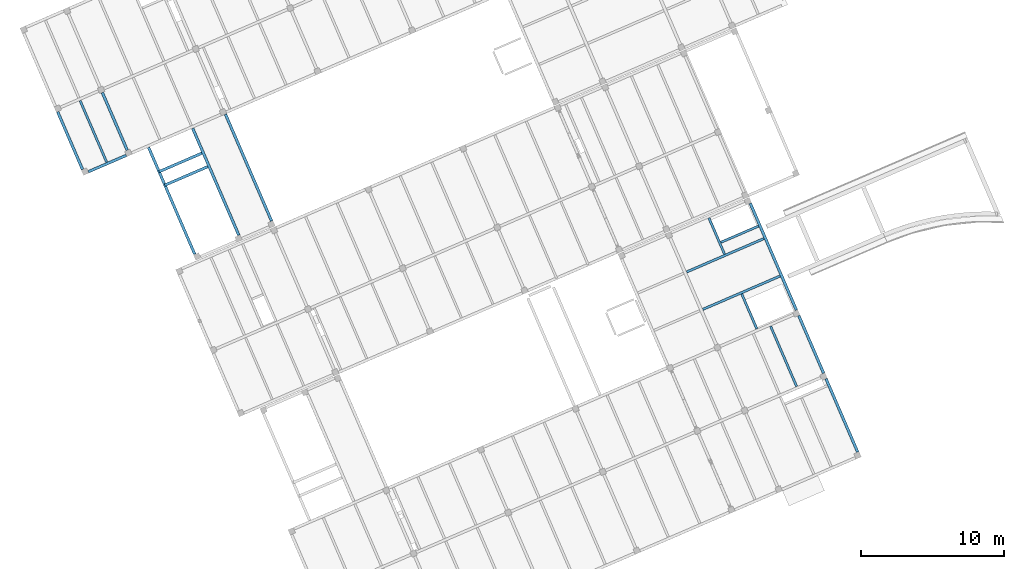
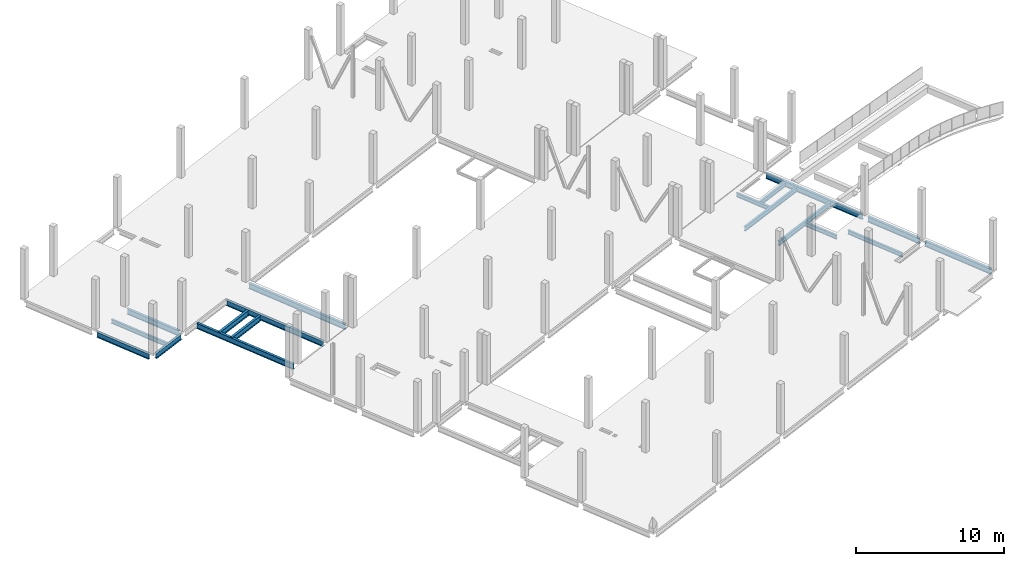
# One storey, part 13 of 24: 18 beams.
"""IFC4 building model written with IfcOpenShell, lengths in metres."""

from ifc_helpers import new_model, entity, si_unit, converted_unit, derived_unit, direction, frame, origin, place, context, subcontext, project, spatial, line, arc, indexed_curve, outline, extrude, source, transform, mapped, material, type_object, type_shapes, element, save


model = new_model("IFC4")

# Units and contexts
model_context = context("Model", 3, precision=1e-05, world=origin(), true_north=direction((6.12323399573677e-17, 1.0)))
body_context = subcontext(model_context, "Body", "Model", "MODEL_VIEW")
ifc_project = project(units=[si_unit("LENGTHUNIT", "METRE"), si_unit("AREAUNIT", "SQUARE_METRE"), si_unit("VOLUMEUNIT", "CUBIC_METRE"), converted_unit("PLANEANGLEUNIT", "DEGREE", entity("IfcPlaneAngleMeasure", 0.0174532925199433), si_unit("PLANEANGLEUNIT", "RADIAN"), dimensions=[0, 0, 0, 0, 0, 0, 0]), si_unit("MASSUNIT", "GRAM", prefix="KILO"), derived_unit("MOMENTOFINERTIAUNIT", [(si_unit("LENGTHUNIT", "METRE"), 4)]), derived_unit("LINEARFORCEUNIT", [(si_unit("MASSUNIT", "GRAM", prefix="KILO"), 1), (si_unit("TIMEUNIT", "SECOND"), -2)]), derived_unit("WARPINGCONSTANTUNIT", [(si_unit("LENGTHUNIT", "METRE"), 6)]), derived_unit("THERMALTRANSMITTANCEUNIT", [(si_unit("MASSUNIT", "GRAM", prefix="KILO"), 1), (si_unit("THERMODYNAMICTEMPERATUREUNIT", "KELVIN"), -1), (si_unit("TIMEUNIT", "SECOND"), -3)]), derived_unit("USERDEFINED", [(si_unit("MASSUNIT", "GRAM", prefix="KILO"), 1), (si_unit("TIMEUNIT", "SECOND"), -2), (si_unit("THERMODYNAMICTEMPERATUREUNIT", "KELVIN"), -1)]), derived_unit("THERMALRESISTANCEUNIT", [(si_unit("MASSUNIT", "GRAM", prefix="KILO"), -1), (si_unit("TIMEUNIT", "SECOND"), 3), (si_unit("THERMODYNAMICTEMPERATUREUNIT", "KELVIN"), 1)])], contexts=[model_context])

# Site, building, storey
site_placement = place(None, origin())
site = spatial("IfcSite", under=ifc_project, at=site_placement, Name="Default", CompositionType="ELEMENT")
building_placement = place(site_placement, frame((12.6613425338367, -82.5732315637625, 317.15), z_axis=(0.0, 0.0, 1.0), x_axis=(-0.396377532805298, 0.918087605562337, 0.0)))
building = spatial("IfcBuilding", under=site, at=building_placement, Name="CESFAM Coyhaique", CompositionType="ELEMENT")
storey_placement = place(building_placement, frame((0.0, 0.0, 4.20000000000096)))
storey = spatial("IfcBuildingStorey", under=building, at=storey_placement, Name="Nivel 2", CompositionType="ELEMENT", Elevation=4.20000000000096)

# Beams
ifc_material = material(Name="Steel, 45-345", Category="Metal")
beam_type_1 = type_object("IfcBeamType", Name="M_W Shapes:W450X190mm", PredefinedType="BEAM", material=ifc_material)
shared_shape_1 = source(origin(), body_context, "Body", "SweptSolid", [
    extrude(outline(indexed_curve([(-0.225, -0.0949999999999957), (-0.215350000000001, -0.0949999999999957), (-0.21535, -0.0105699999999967), (-0.213109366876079, -0.00516063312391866), (-0.2077, -0.00291999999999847), (0.207699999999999, -0.00291999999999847), (0.213109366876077, -0.00516063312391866), (0.215349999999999, -0.0105699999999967), (0.215349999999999, -0.0949999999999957), (0.225, -0.0949999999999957), (0.225, 0.0950000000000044), (0.215349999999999, 0.0950000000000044), (0.215349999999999, 0.0105700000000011), (0.213109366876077, 0.00516063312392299), (0.207699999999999, 0.0029200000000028), (-0.2077, 0.0029200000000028), (-0.213109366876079, 0.00516063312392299), (-0.215350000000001, 0.0105700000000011), (-0.215350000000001, 0.0950000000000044), (-0.225, 0.0950000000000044)], segments=[line(1, 2, 3), arc(3, 4, 5), line(5, 6), arc(6, 7, 8), line(8, 9, 10, 11, 12, 13), arc(13, 14, 15), line(15, 16), arc(16, 17, 18), line(18, 19, 20, 1)], self_intersect=False)), frame((4.38155341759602, -21.2971500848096, 3.82500000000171), z_axis=(1.0, 0.0, 0.0), x_axis=(0.0, 0.0, -1.0)), (0.0, 0.0, 1.0), 5.5746),
])
type_shapes(beam_type_1, [shared_shape_1])
beam_1_placement = place(storey_placement, frame((0.0, 0.0, -4.20000000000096)))
element("IfcBeam", 1, at=beam_1_placement, inside=storey, type_object=beam_type_1, Name="M_W Shapes:W450X190mm", ObjectType="M_W Shapes:W450X190mm", PredefinedType="BEAM", context=body_context, shape_type="MappedRepresentation", body=[
    mapped(shared_shape_1, transform((0.0, 0.0, 0.0), scale=1.0)),
])
beam_type_2 = type_object("IfcBeamType", Name="M_W Shapes:W450X190mm", PredefinedType="BEAM", material=ifc_material)
shared_shape_2 = source(origin(), body_context, "Body", "SweptSolid", [
    extrude(outline(indexed_curve([(-0.225, -0.0950000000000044), (-0.215350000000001, -0.0950000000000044), (-0.21535, -0.0105700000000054), (-0.213109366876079, -0.00516063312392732), (-0.2077, -0.00292000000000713), (0.207699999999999, -0.00292000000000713), (0.213109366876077, -0.00516063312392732), (0.215349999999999, -0.0105700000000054), (0.215349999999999, -0.0950000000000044), (0.225, -0.0950000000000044), (0.225, 0.0949999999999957), (0.215349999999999, 0.0949999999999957), (0.215349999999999, 0.0105699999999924), (0.213109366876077, 0.00516063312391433), (0.207699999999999, 0.00291999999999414), (-0.2077, 0.00291999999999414), (-0.213109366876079, 0.00516063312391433), (-0.215350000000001, 0.0105699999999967), (-0.215350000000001, 0.0949999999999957), (-0.225, 0.0949999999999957)], segments=[line(1, 2, 3), arc(3, 4, 5), line(5, 6), arc(6, 7, 8), line(8, 9, 10, 11, 12, 13), arc(13, 14, 15), line(15, 16), arc(16, 17, 18), line(18, 19, 20, 1)], self_intersect=False)), frame((10.3815534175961, -21.2971500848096, 3.82500000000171), z_axis=(1.0, 0.0, 0.0), x_axis=(0.0, 0.0, -1.0)), (0.0, 0.0, 1.0), 4.3746),
])
type_shapes(beam_type_2, [shared_shape_2])
beam_2_placement = place(storey_placement, frame((0.0, 0.0, -4.20000000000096)))
element("IfcBeam", 2, at=beam_2_placement, inside=storey, type_object=beam_type_2, Name="M_W Shapes:W450X190mm", ObjectType="M_W Shapes:W450X190mm", PredefinedType="BEAM", context=body_context, shape_type="MappedRepresentation", body=[
    mapped(shared_shape_2, transform((0.0, 0.0, 0.0), scale=1.0)),
])
beam_type_3 = type_object("IfcBeamType", Name="M_W Shapes:W450X190mm", PredefinedType="BEAM", material=ifc_material)
shared_shape_3 = source(origin(), body_context, "Body", "SweptSolid", [
    extrude(outline(indexed_curve([(-0.225, -0.0950000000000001), (-0.215350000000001, -0.0950000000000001), (-0.21535, -0.0105700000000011), (-0.213109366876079, -0.00516063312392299), (-0.2077, -0.0029200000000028), (0.207699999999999, -0.0029200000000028), (0.213109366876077, -0.00516063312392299), (0.215349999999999, -0.0105700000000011), (0.215349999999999, -0.0950000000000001), (0.225, -0.0950000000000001), (0.225, 0.0950000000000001), (0.215349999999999, 0.0950000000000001), (0.215349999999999, 0.0105699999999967), (0.213109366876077, 0.00516063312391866), (0.207699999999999, 0.00291999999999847), (-0.2077, 0.00291999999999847), (-0.213109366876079, 0.00516063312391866), (-0.215350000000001, 0.0105700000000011), (-0.215350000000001, 0.0950000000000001), (-0.225, 0.0950000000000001)], segments=[line(1, 2, 3), arc(3, 4, 5), line(5, 6), arc(6, 7, 8), line(8, 9, 10, 11, 12, 13), arc(13, 14, 15), line(15, 16), arc(16, 17, 18), line(18, 19, 20, 1)], self_intersect=False)), frame((15.1815534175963, -21.2971500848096, 3.82500000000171), z_axis=(1.0, 0.0, 0.0), x_axis=(0.0, 0.0, -1.0)), (0.0, 0.0, 1.0), 8.1246),
])
type_shapes(beam_type_3, [shared_shape_3])
beam_3_placement = place(storey_placement, frame((0.0, 0.0, -4.20000000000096)))
element("IfcBeam", 3, at=beam_3_placement, inside=storey, type_object=beam_type_3, Name="M_W Shapes:W450X190mm", ObjectType="M_W Shapes:W450X190mm", PredefinedType="BEAM", context=body_context, shape_type="MappedRepresentation", body=[
    mapped(shared_shape_3, transform((0.0, 0.0, 0.0), scale=1.0)),
])
beam_type_4 = type_object("IfcBeamType", Name="M_W Shapes:W450X190mm", PredefinedType="BEAM", material=ifc_material)
shared_shape_4 = source(origin(), body_context, "Body", "SweptSolid", [
    extrude(outline(indexed_curve([(-0.225, -0.0950000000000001), (-0.215350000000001, -0.0949999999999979), (-0.21535, -0.0105699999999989), (-0.213109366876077, -0.00516063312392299), (-0.2077, -0.00291999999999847), (0.207699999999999, -0.00291999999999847), (0.213109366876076, -0.00516063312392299), (0.215349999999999, -0.0105699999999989), (0.215349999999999, -0.0950000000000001), (0.225, -0.0950000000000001), (0.225, 0.0950000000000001), (0.215349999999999, 0.0950000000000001), (0.215349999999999, 0.0105700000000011), (0.213109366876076, 0.00516063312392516), (0.207699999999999, 0.00292000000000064), (-0.2077, 0.00292000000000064), (-0.213109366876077, 0.00516063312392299), (-0.215350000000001, 0.0105700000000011), (-0.215350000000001, 0.0950000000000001), (-0.225, 0.0950000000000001)], segments=[line(1, 2, 3), arc(3, 4, 5), line(5, 6), arc(6, 7, 8), line(8, 9, 10, 11, 12, 13), arc(13, 14, 15), line(15, 16), arc(16, 17, 18), line(18, 19, 20, 1)], self_intersect=False)), frame((43.9815534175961, 17.2028504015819, 3.82500000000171), z_axis=(1.0, 0.0, 0.0), x_axis=(0.0, 0.0, -1.0)), (0.0, 0.0, 1.0), 4.3746),
])
type_shapes(beam_type_4, [shared_shape_4])
beam_4_placement = place(storey_placement, frame((0.0, 0.0, -4.20000000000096)))
element("IfcBeam", 4, at=beam_4_placement, inside=storey, type_object=beam_type_4, Name="M_W Shapes:W450X190mm", ObjectType="M_W Shapes:W450X190mm", PredefinedType="BEAM", context=body_context, shape_type="MappedRepresentation", body=[
    mapped(shared_shape_4, transform((0.0, 0.0, 0.0), scale=1.0)),
])
beam_type_5 = type_object("IfcBeamType", Name="M_W Shapes:W450X190mm", PredefinedType="BEAM", material=ifc_material)
shared_shape_5 = source(origin(), body_context, "Body", "SweptSolid", [
    extrude(outline(indexed_curve([(-0.225, -0.0949999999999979), (-0.215350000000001, -0.0949999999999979), (-0.21535, -0.0105699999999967), (-0.213109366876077, -0.00516063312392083), (-0.2077, -0.0029199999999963), (0.207699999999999, -0.0029199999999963), (0.213109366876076, -0.00516063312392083), (0.215349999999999, -0.0105699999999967), (0.215349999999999, -0.0949999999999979), (0.225, -0.0949999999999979), (0.225, 0.0950000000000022), (0.215349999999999, 0.0950000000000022), (0.215349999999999, 0.0105700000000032), (0.213109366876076, 0.00516063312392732), (0.207699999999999, 0.0029200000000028), (-0.2077, 0.0029200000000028), (-0.213109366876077, 0.00516063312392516), (-0.215350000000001, 0.0105700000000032), (-0.215350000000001, 0.0950000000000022), (-0.225, 0.0950000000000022)], segments=[line(1, 2, 3), arc(3, 4, 5), line(5, 6), arc(6, 7, 8), line(8, 9, 10, 11, 12, 13), arc(13, 14, 15), line(15, 16), arc(16, 17, 18), line(18, 19, 20, 1)], self_intersect=False)), frame((35.4315534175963, 12.3978519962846, 3.82500000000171), z_axis=(1.0, 0.0, 0.0), x_axis=(0.0, 0.0, -1.0)), (0.0, 0.0, 1.0), 8.1296),
])
type_shapes(beam_type_5, [shared_shape_5])
beam_5_placement = place(storey_placement, frame((0.0, 0.0, -4.20000000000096)))
element("IfcBeam", 5, at=beam_5_placement, inside=storey, type_object=beam_type_5, Name="M_W Shapes:W450X190mm", ObjectType="M_W Shapes:W450X190mm", PredefinedType="BEAM", context=body_context, shape_type="MappedRepresentation", body=[
    mapped(shared_shape_5, transform((0.0, 0.0, 0.0), scale=1.0)),
])
beam_type_6 = type_object("IfcBeamType", Name="M_W Shapes:W450X190mm", PredefinedType="BEAM", material=ifc_material)
shared_shape_6 = source(origin(), body_context, "Body", "SweptSolid", [
    extrude(outline(indexed_curve([(-0.225, -0.0950000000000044), (-0.215350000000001, -0.0950000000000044), (-0.21535, -0.0105700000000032), (-0.213109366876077, -0.00516063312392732), (-0.2077, -0.0029200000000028), (0.207699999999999, -0.0029200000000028), (0.213109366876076, -0.00516063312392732), (0.215349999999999, -0.0105700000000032), (0.215349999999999, -0.0950000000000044), (0.225, -0.0950000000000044), (0.225, 0.0949999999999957), (0.215349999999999, 0.0949999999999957), (0.215349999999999, 0.0105699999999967), (0.213109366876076, 0.00516063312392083), (0.207699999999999, 0.0029199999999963), (-0.2077, 0.0029199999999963), (-0.213109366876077, 0.00516063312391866), (-0.215350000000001, 0.0105699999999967), (-0.215350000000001, 0.0949999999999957), (-0.225, 0.0949999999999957)], segments=[line(1, 2, 3), arc(3, 4, 5), line(5, 6), arc(6, 7, 8), line(8, 9, 10, 11, 12, 13), arc(13, 14, 15), line(15, 16), arc(16, 17, 18), line(18, 19, 20, 1)], self_intersect=False)), frame((35.4315534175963, 15.7528504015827, 3.82500000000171), z_axis=(1.0, 0.0, 0.0), x_axis=(0.0, 0.0, -1.0)), (0.0, 0.0, 1.0), 8.1296),
])
type_shapes(beam_type_6, [shared_shape_6])
beam_6_placement = place(storey_placement, frame((0.0, 0.0, -4.20000000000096)))
element("IfcBeam", 6, at=beam_6_placement, inside=storey, type_object=beam_type_6, Name="M_W Shapes:W450X190mm", ObjectType="M_W Shapes:W450X190mm", PredefinedType="BEAM", context=body_context, shape_type="MappedRepresentation", body=[
    mapped(shared_shape_6, transform((0.0, 0.0, 0.0), scale=1.0)),
])
beam_type_7 = type_object("IfcBeamType", Name="M_W Shapes:W450X190mm", PredefinedType="BEAM", material=ifc_material)
shared_shape_7 = source(origin(), body_context, "Body", "SweptSolid", [
    extrude(outline(indexed_curve([(-0.0950000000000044, -0.225000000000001), (0.0949999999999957, -0.225000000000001), (0.0950000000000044, -0.21535), (0.0105699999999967, -0.21535), (0.00516063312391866, -0.213109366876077), (0.0029200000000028, -0.2077), (0.00291999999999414, 0.207699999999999), (0.00516063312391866, 0.213109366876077), (0.0105699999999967, 0.21535), (0.0949999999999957, 0.21535), (0.0949999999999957, 0.224999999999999), (-0.0950000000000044, 0.224999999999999), (-0.0950000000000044, 0.21535), (-0.0105700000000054, 0.215349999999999), (-0.00516063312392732, 0.213109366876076), (-0.0029200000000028, 0.207699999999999), (-0.0029200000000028, -0.2077), (-0.00516063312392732, -0.213109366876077), (-0.0105699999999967, -0.21535), (-0.0950000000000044, -0.21535)], segments=[line(1, 2, 3, 4), arc(4, 5, 6), line(6, 7), arc(7, 8, 9), line(9, 10, 11, 12, 13, 14), arc(14, 15, 16), line(16, 17), arc(17, 18, 19), line(19, 20, 1)], self_intersect=False)), frame((43.6688534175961, 17.4156003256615, 3.82500000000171), z_axis=(0.0, 1.0, 0.0), x_axis=(-1.0, 0.0, 0.0)), (0.0, 0.0, 1.0), 2.8745),
])
type_shapes(beam_type_7, [shared_shape_7])
beam_7_placement = place(storey_placement, frame((0.0, 0.0, -4.20000000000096)))
element("IfcBeam", 7, at=beam_7_placement, inside=storey, type_object=beam_type_7, Name="M_W Shapes:W450X190mm", ObjectType="M_W Shapes:W450X190mm", PredefinedType="BEAM", context=body_context, shape_type="MappedRepresentation", body=[
    mapped(shared_shape_7, transform((0.0, 0.0, 0.0), scale=1.0)),
])
beam_type_8 = type_object("IfcBeamType", Name="M_W Shapes:W450X190mm", PredefinedType="BEAM", material=ifc_material)
shared_shape_8 = source(origin(), body_context, "Body", "SweptSolid", [
    extrude(outline(indexed_curve([(-0.225, -0.0950000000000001), (-0.215350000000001, -0.0950000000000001), (-0.21535, -0.0105700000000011), (-0.213109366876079, -0.00516063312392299), (-0.2077, -0.0029200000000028), (0.207699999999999, -0.0029200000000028), (0.213109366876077, -0.00516063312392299), (0.215349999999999, -0.0105700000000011), (0.215349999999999, -0.0950000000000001), (0.225, -0.0950000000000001), (0.225, 0.0950000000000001), (0.215349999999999, 0.0950000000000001), (0.215349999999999, 0.0105699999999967), (0.213109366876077, 0.00516063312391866), (0.207699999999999, 0.00291999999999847), (-0.2077, 0.00291999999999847), (-0.213109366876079, 0.00516063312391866), (-0.215350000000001, 0.0105700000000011), (-0.215350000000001, 0.0950000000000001), (-0.225, 0.0950000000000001)], segments=[line(1, 2, 3), arc(3, 4, 5), line(5, 6), arc(6, 7, 8), line(8, 9, 10, 11, 12, 13), arc(13, 14, 15), line(15, 16), arc(16, 17, 18), line(18, 19, 20, 1)], self_intersect=False)), frame((43.9815534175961, 20.6028502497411, 3.82500000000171), z_axis=(1.0, 0.0, 0.0), x_axis=(0.0, 0.0, -1.0)), (0.0, 0.0, 1.0), 4.3746),
])
type_shapes(beam_type_8, [shared_shape_8])
beam_8_placement = place(storey_placement, frame((0.0, 0.0, -4.20000000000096)))
element("IfcBeam", 8, at=beam_8_placement, inside=storey, type_object=beam_type_8, Name="M_W Shapes:W450X190mm", ObjectType="M_W Shapes:W450X190mm", PredefinedType="BEAM", context=body_context, shape_type="MappedRepresentation", body=[
    mapped(shared_shape_8, transform((0.0, 0.0, 0.0), scale=1.0)),
])
beam_type_9 = type_object("IfcBeamType", Name="M_W Shapes:W450X190mm", PredefinedType="BEAM", material=ifc_material)
shared_shape_9 = source(origin(), body_context, "Body", "SweptSolid", [
    extrude(outline(indexed_curve([(-0.225, -0.0950000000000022), (-0.215350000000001, -0.0950000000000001), (-0.21535, -0.0105700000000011), (-0.213109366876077, -0.00516063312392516), (-0.2077, -0.00292000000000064), (0.207699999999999, -0.00292000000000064), (0.213109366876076, -0.00516063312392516), (0.215349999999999, -0.0105700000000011), (0.215349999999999, -0.0950000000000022), (0.225, -0.0950000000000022), (0.225, 0.0949999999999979), (0.215349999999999, 0.0949999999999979), (0.215349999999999, 0.0105699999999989), (0.213109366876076, 0.00516063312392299), (0.207699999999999, 0.00291999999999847), (-0.2077, 0.00291999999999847), (-0.213109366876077, 0.00516063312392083), (-0.215350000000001, 0.0105699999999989), (-0.215350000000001, 0.0949999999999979), (-0.225, 0.0949999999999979)], segments=[line(1, 2, 3), arc(3, 4, 5), line(5, 6), arc(6, 7, 8), line(8, 9, 10, 11, 12, 13), arc(13, 14, 15), line(15, 16), arc(16, 17, 18), line(18, 19, 20, 1)], self_intersect=False)), frame((35.4315534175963, 9.9028504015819, 3.82500000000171), z_axis=(1.0, 0.0, 0.0), x_axis=(0.0, 0.0, -1.0)), (0.0, 0.0, 1.0), 8.1246),
])
type_shapes(beam_type_9, [shared_shape_9])
beam_9_placement = place(storey_placement, frame((0.0, 0.0, -4.20000000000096)))
element("IfcBeam", 9, at=beam_9_placement, inside=storey, type_object=beam_type_9, Name="M_W Shapes:W450X190mm", ObjectType="M_W Shapes:W450X190mm", PredefinedType="BEAM", context=body_context, shape_type="MappedRepresentation", body=[
    mapped(shared_shape_9, transform((0.0, 0.0, 0.0), scale=1.0)),
])
beam_type_10 = type_object("IfcBeamType", Name="M_W Shapes:W360X170mm", PredefinedType="BEAM", material=ifc_material)
shared_shape_10 = source(origin(), body_context, "Body", "SweptSolid", [
    extrude(outline(indexed_curve([(-0.084999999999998, -0.180000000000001), (0.0850000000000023, -0.180000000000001), (0.0850000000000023, -0.17035), (0.0105700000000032, -0.17035), (0.00516063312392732, -0.168109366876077), (0.0029200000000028, -0.1627), (0.0029200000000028, 0.162699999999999), (0.00516063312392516, 0.168109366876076), (0.0105700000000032, 0.17035), (0.0850000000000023, 0.17035), (0.0850000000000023, 0.179999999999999), (-0.084999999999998, 0.179999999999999), (-0.084999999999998, 0.17035), (-0.0105699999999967, 0.170349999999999), (-0.00516063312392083, 0.168109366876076), (-0.0029199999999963, 0.1627), (-0.0029199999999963, -0.1627), (-0.00516063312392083, -0.168109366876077), (-0.0105699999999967, -0.17035), (-0.084999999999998, -0.17035)], segments=[line(1, 2, 3, 4), arc(4, 5, 6), line(6, 7), arc(7, 8, 9), line(9, 10, 11, 12, 13, 14), arc(14, 15, 16), line(16, 17), arc(17, 18, 19), line(19, 20, 1)], self_intersect=False)), frame((17.8188534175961, -21.1894498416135, 3.87000000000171), z_axis=(0.0, 1.0, 0.0), x_axis=(-1.0, 0.0, 0.0)), (0.0, 0.0, 1.0), 5.8746),
])
type_shapes(beam_type_10, [shared_shape_10])
beam_10_placement = place(storey_placement, frame((0.0, 0.0, -4.20000000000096)))
element("IfcBeam", 10, at=beam_10_placement, inside=storey, type_object=beam_type_10, Name="M_W Shapes:W360X170mm", ObjectType="M_W Shapes:W360X170mm", PredefinedType="BEAM", context=body_context, shape_type="MappedRepresentation", body=[
    mapped(shared_shape_10, transform((0.0, 0.0, 0.0), scale=1.0)),
])
beam_type_11 = type_object("IfcBeamType", Name="M_W Shapes:W360X170mm", PredefinedType="BEAM", material=ifc_material)
shared_shape_11 = source(origin(), body_context, "Body", "SweptSolid", [
    extrude(outline(indexed_curve([(-0.0850000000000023, -0.180000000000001), (0.084999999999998, -0.180000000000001), (0.084999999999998, -0.17035), (0.0105699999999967, -0.17035), (0.00516063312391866, -0.168109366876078), (0.00291999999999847, -0.1627), (0.00291999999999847, 0.162699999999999), (0.00516063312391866, 0.168109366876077), (0.0105699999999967, 0.17035), (0.084999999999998, 0.17035), (0.084999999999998, 0.179999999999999), (-0.0850000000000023, 0.179999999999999), (-0.0850000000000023, 0.17035), (-0.0105700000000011, 0.170349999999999), (-0.00516063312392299, 0.168109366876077), (-0.0029200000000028, 0.1627), (-0.0029200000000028, -0.1627), (-0.00516063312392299, -0.168109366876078), (-0.0105700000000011, -0.17035), (-0.0850000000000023, -0.17035)], segments=[line(1, 2, 3, 4), arc(4, 5, 6), line(6, 7), arc(7, 8, 9), line(9, 10, 11, 12, 13, 14), arc(14, 15, 16), line(16, 17), arc(17, 18, 19), line(19, 20, 1)], self_intersect=False)), frame((20.6688534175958, -21.1894498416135, 3.87000000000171), z_axis=(0.0, 1.0, 0.0), x_axis=(-1.0, 0.0, 0.0)), (0.0, 0.0, 1.0), 5.8746),
])
type_shapes(beam_type_11, [shared_shape_11])
beam_11_placement = place(storey_placement, frame((0.0, 0.0, -4.20000000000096)))
element("IfcBeam", 11, at=beam_11_placement, inside=storey, type_object=beam_type_11, Name="M_W Shapes:W360X170mm", ObjectType="M_W Shapes:W360X170mm", PredefinedType="BEAM", context=body_context, shape_type="MappedRepresentation", body=[
    mapped(shared_shape_11, transform((0.0, 0.0, 0.0), scale=1.0)),
])
beam_type_12 = type_object("IfcBeamType", Name="M_W Shapes:W330X160mm", PredefinedType="BEAM", material=ifc_material)
shared_shape_12 = source(origin(), body_context, "Body", "SweptSolid", [
    extrude(outline(indexed_curve([(-0.164999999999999, -0.0799999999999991), (-0.15535, -0.0799999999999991), (-0.15535, -0.0105699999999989), (-0.153109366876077, -0.00516063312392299), (-0.1477, -0.00291999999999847), (0.1477, -0.00291999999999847), (0.153109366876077, -0.00516063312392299), (0.15535, -0.0105699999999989), (0.15535, -0.0799999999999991), (0.165, -0.0799999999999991), (0.165, 0.0800000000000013), (0.15535, 0.0800000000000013), (0.15535, 0.0105700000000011), (0.153109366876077, 0.00516063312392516), (0.1477, 0.00292000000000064), (-0.1477, 0.00292000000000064), (-0.153109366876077, 0.00516063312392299), (-0.15535, 0.0105700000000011), (-0.15535, 0.0800000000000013), (-0.164999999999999, 0.0800000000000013)], segments=[line(1, 2, 3), arc(3, 4, 5), line(5, 6), arc(6, 7, 8), line(8, 9, 10, 11, 12, 13), arc(13, 14, 15), line(15, 16), arc(16, 17, 18), line(18, 19, 20, 1)], self_intersect=False)), frame((15.0765534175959, -18.2381495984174, 3.88500000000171), z_axis=(1.0, 0.0, 0.0), x_axis=(0.0, 0.0, -1.0)), (0.0, 0.0, 1.0), 2.6573),
])
type_shapes(beam_type_12, [shared_shape_12])
beam_12_placement = place(storey_placement, frame((0.0, 0.0, -4.20000000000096)))
element("IfcBeam", 12, at=beam_12_placement, inside=storey, type_object=beam_type_12, Name="M_W Shapes:W330X160mm", ObjectType="M_W Shapes:W330X160mm", PredefinedType="BEAM", context=body_context, shape_type="MappedRepresentation", body=[
    mapped(shared_shape_12, transform((0.0, 0.0, 0.0), scale=1.0)),
])
beam_type_13 = type_object("IfcBeamType", Name="M_W Shapes:W330X160mm", PredefinedType="BEAM", material=ifc_material)
shared_shape_13 = source(origin(), body_context, "Body", "SweptSolid", [
    extrude(outline(indexed_curve([(-0.164999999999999, -0.0799999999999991), (-0.15535, -0.0799999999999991), (-0.15535, -0.0105699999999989), (-0.153109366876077, -0.00516063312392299), (-0.1477, -0.00291999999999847), (0.1477, -0.00291999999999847), (0.153109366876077, -0.00516063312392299), (0.15535, -0.0105699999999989), (0.15535, -0.0799999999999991), (0.165, -0.0799999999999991), (0.165, 0.0800000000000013), (0.15535, 0.0800000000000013), (0.15535, 0.0105700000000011), (0.153109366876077, 0.00516063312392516), (0.1477, 0.00292000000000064), (-0.1477, 0.00292000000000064), (-0.153109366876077, 0.00516063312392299), (-0.15535, 0.0105700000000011), (-0.15535, 0.0800000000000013), (-0.164999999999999, 0.0800000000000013)], segments=[line(1, 2, 3), arc(3, 4, 5), line(5, 6), arc(6, 7, 8), line(8, 9, 10, 11, 12, 13), arc(13, 14, 15), line(15, 16), arc(16, 17, 18), line(18, 19, 20, 1)], self_intersect=False)), frame((20.7538534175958, -18.2381495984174, 3.88500000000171), z_axis=(1.0, 0.0, 0.0), x_axis=(0.0, 0.0, -1.0)), (0.0, 0.0, 1.0), 2.7573),
])
type_shapes(beam_type_13, [shared_shape_13])
beam_13_placement = place(storey_placement, frame((0.0, 0.0, -4.20000000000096)))
element("IfcBeam", 13, at=beam_13_placement, inside=storey, type_object=beam_type_13, Name="M_W Shapes:W330X160mm", ObjectType="M_W Shapes:W330X160mm", PredefinedType="BEAM", context=body_context, shape_type="MappedRepresentation", body=[
    mapped(shared_shape_13, transform((0.0, 0.0, 0.0), scale=1.0)),
])
beam_type_14 = type_object("IfcBeamType", Name="M_W Shapes:W330X160mm", PredefinedType="BEAM", material=ifc_material)
shared_shape_14 = source(origin(), body_context, "Body", "SweptSolid", [
    extrude(outline(indexed_curve([(-0.0799999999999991, -0.165), (0.0800000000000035, -0.165), (0.0800000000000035, -0.15535), (0.0105700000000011, -0.155349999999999), (0.00516063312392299, -0.153109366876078), (0.0029200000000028, -0.1477), (0.0029200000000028, 0.1477), (0.00516063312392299, 0.153109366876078), (0.0105700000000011, 0.15535), (0.0800000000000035, 0.15535), (0.0800000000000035, 0.164999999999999), (-0.0799999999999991, 0.164999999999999), (-0.0799999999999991, 0.15535), (-0.0105699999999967, 0.155349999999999), (-0.00516063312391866, 0.153109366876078), (-0.00291999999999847, 0.1477), (-0.00291999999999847, -0.1477), (-0.00516063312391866, -0.153109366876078), (-0.0105699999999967, -0.15535), (-0.0799999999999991, -0.15535)], segments=[line(1, 2, 3, 4), arc(4, 5, 6), line(6, 7), arc(7, 8, 9), line(9, 10, 11, 12, 13, 14), arc(14, 15, 16), line(16, 17), arc(17, 18, 19), line(19, 20, 1)], self_intersect=False)), frame((21.6188534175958, -21.1894498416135, 3.88500000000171), z_axis=(0.0, 1.0, 0.0), x_axis=(-1.0, 0.0, 0.0)), (0.0, 0.0, 1.0), 2.8586),
])
type_shapes(beam_type_14, [shared_shape_14])
beam_14_placement = place(storey_placement, frame((0.0, 0.0, -4.20000000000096)))
element("IfcBeam", 14, at=beam_14_placement, inside=storey, type_object=beam_type_14, Name="M_W Shapes:W330X160mm", ObjectType="M_W Shapes:W330X160mm", PredefinedType="BEAM", context=body_context, shape_type="MappedRepresentation", body=[
    mapped(shared_shape_14, transform((0.0, 0.0, 0.0), scale=1.0)),
])
beam_type_15 = type_object("IfcBeamType", Name="M_W Shapes:W330X160mm", PredefinedType="BEAM", material=ifc_material)
shared_shape_15 = source(origin(), body_context, "Body", "SweptSolid", [
    extrude(outline(indexed_curve([(-0.164999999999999, -0.0799999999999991), (-0.15535, -0.0799999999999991), (-0.15535, -0.0105699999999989), (-0.153109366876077, -0.00516063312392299), (-0.1477, -0.00291999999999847), (0.1477, -0.00291999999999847), (0.153109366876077, -0.00516063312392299), (0.15535, -0.0105700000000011), (0.15535, -0.0799999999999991), (0.165, -0.0799999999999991), (0.165000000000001, 0.0800000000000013), (0.15535, 0.0799999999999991), (0.15535, 0.0105700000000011), (0.153109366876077, 0.00516063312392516), (0.1477, 0.00292000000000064), (-0.1477, 0.00292000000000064), (-0.153109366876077, 0.00516063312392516), (-0.15535, 0.0105700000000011), (-0.15535, 0.0800000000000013), (-0.164999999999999, 0.0799999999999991)], segments=[line(1, 2, 3), arc(3, 4, 5), line(5, 6), arc(6, 7, 8), line(8, 9, 10, 11, 12, 13), arc(13, 14, 15), line(15, 16), arc(16, 17, 18), line(18, 19, 20, 1)], self_intersect=False)), frame((10.2765534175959, -19.1971495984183, 3.88500000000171), z_axis=(1.0, 0.0, 0.0), x_axis=(0.0, 0.0, -1.0)), (0.0, 0.0, 1.0), 4.5846),
])
type_shapes(beam_type_15, [shared_shape_15])
beam_15_placement = place(storey_placement, frame((0.0, 0.0, -4.20000000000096)))
element("IfcBeam", 15, at=beam_15_placement, inside=storey, type_object=beam_type_15, Name="M_W Shapes:W330X160mm", ObjectType="M_W Shapes:W330X160mm", PredefinedType="BEAM", context=body_context, shape_type="MappedRepresentation", body=[
    mapped(shared_shape_15, transform((0.0, 0.0, 0.0), scale=1.0)),
])
beam_type_16 = type_object("IfcBeamType", Name="M_W Shapes:W330X160mm", PredefinedType="BEAM", material=ifc_material)
shared_shape_16 = source(origin(), body_context, "Body", "SweptSolid", [
    extrude(outline(indexed_curve([(-0.164999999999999, -0.0799999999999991), (-0.15535, -0.0799999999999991), (-0.15535, -0.0105699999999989), (-0.153109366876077, -0.00516063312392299), (-0.1477, -0.00291999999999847), (0.1477, -0.00291999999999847), (0.153109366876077, -0.00516063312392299), (0.15535, -0.0105700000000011), (0.15535, -0.0799999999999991), (0.165, -0.0799999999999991), (0.165000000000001, 0.0800000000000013), (0.15535, 0.0799999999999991), (0.15535, 0.0105700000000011), (0.153109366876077, 0.00516063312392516), (0.1477, 0.00292000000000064), (-0.1477, 0.00292000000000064), (-0.153109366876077, 0.00516063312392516), (-0.15535, 0.0105700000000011), (-0.15535, 0.0800000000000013), (-0.164999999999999, 0.0799999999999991)], segments=[line(1, 2, 3), arc(3, 4, 5), line(5, 6), arc(6, 7, 8), line(8, 9, 10, 11, 12, 13), arc(13, 14, 15), line(15, 16), arc(16, 17, 18), line(18, 19, 20, 1)], self_intersect=False)), frame((43.7765534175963, 18.8528503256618, 3.88500000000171), z_axis=(1.0, 0.0, 0.0), x_axis=(0.0, 0.0, -1.0)), (0.0, 0.0, 1.0), 4.6846),
])
type_shapes(beam_type_16, [shared_shape_16])
beam_16_placement = place(storey_placement, frame((0.0, 0.0, -4.20000000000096)))
element("IfcBeam", 16, at=beam_16_placement, inside=storey, type_object=beam_type_16, Name="M_W Shapes:W330X160mm", ObjectType="M_W Shapes:W330X160mm", PredefinedType="BEAM", context=body_context, shape_type="MappedRepresentation", body=[
    mapped(shared_shape_16, transform((0.0, 0.0, 0.0), scale=1.0)),
])
beam_type_17 = type_object("IfcBeamType", Name="M_W Shapes:W450X190mm", PredefinedType="BEAM", material=ifc_material)
shared_shape_17 = source(origin(), body_context, "Body", "SweptSolid", [
    extrude(outline(indexed_curve([(-0.0950000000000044, -0.225000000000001), (0.0949999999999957, -0.225000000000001), (0.0949999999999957, -0.21535), (0.0105699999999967, -0.21535), (0.00516063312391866, -0.213109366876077), (0.0029200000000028, -0.2077), (0.00291999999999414, 0.207699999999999), (0.00516063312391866, 0.213109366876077), (0.0105699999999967, 0.21535), (0.0949999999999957, 0.21535), (0.0949999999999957, 0.224999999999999), (-0.0950000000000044, 0.224999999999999), (-0.0950000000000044, 0.21535), (-0.0105700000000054, 0.215349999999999), (-0.00516063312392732, 0.213109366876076), (-0.0029200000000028, 0.207699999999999), (-0.0029200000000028, -0.2077), (-0.00516063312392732, -0.213109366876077), (-0.0105700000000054, -0.21535), (-0.0950000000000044, -0.21535)], segments=[line(1, 2, 3, 4), arc(4, 5, 6), line(6, 7), arc(7, 8, 9), line(9, 10, 11, 12, 13, 14), arc(14, 15, 16), line(16, 17), arc(17, 18, 19), line(19, 20, 1)], self_intersect=False)), frame((41.7139510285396, 12.5056011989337, 3.82500000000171), z_axis=(0.0, 1.0, 0.0), x_axis=(-1.0, 0.0, 0.0)), (0.0, 0.0, 1.0), 3.2472),
])
type_shapes(beam_type_17, [shared_shape_17])
beam_17_placement = place(storey_placement, frame((0.0, 0.0, -4.20000000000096)))
element("IfcBeam", 17, at=beam_17_placement, inside=storey, type_object=beam_type_17, Name="M_W Shapes:W450X190mm", ObjectType="M_W Shapes:W450X190mm", PredefinedType="BEAM", context=body_context, shape_type="MappedRepresentation", body=[
    mapped(shared_shape_17, transform((0.0, 0.0, 0.0), scale=1.0)),
])
beam_type_18 = type_object("IfcBeamType", Name="M_W Shapes:W450X190mm", PredefinedType="BEAM", material=ifc_material)
shared_shape_18 = source(origin(), body_context, "Body", "SweptSolid", [
    extrude(outline(indexed_curve([(-0.0950000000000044, -0.225000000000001), (0.0949999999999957, -0.225000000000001), (0.0949999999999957, -0.21535), (0.0105699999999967, -0.21535), (0.00516063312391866, -0.213109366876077), (0.0029200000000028, -0.2077), (0.00291999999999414, 0.207699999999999), (0.00516063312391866, 0.213109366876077), (0.0105699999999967, 0.21535), (0.0949999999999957, 0.21535), (0.0949999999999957, 0.224999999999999), (-0.0950000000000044, 0.224999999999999), (-0.0950000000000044, 0.21535), (-0.0105700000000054, 0.215349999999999), (-0.00516063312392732, 0.213109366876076), (-0.0029200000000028, 0.207699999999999), (-0.0029200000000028, -0.2077), (-0.00516063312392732, -0.213109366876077), (-0.0105700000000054, -0.21535), (-0.0950000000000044, -0.21535)], segments=[line(1, 2, 3, 4), arc(4, 5, 6), line(6, 7), arc(7, 8, 9), line(9, 10, 11, 12, 13, 14), arc(14, 15, 16), line(16, 17), arc(17, 18, 19), line(19, 20, 1)], self_intersect=False)), frame((40.6889473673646, 12.5056011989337, 3.82500000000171), z_axis=(0.0, 1.0, 0.0), x_axis=(-1.0, 0.0, 0.0)), (0.0, 0.0, 1.0), 3.2472),
])
type_shapes(beam_type_18, [shared_shape_18])
beam_18_placement = place(storey_placement, frame((0.0, 0.0, -4.20000000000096)))
element("IfcBeam", 18, at=beam_18_placement, inside=storey, type_object=beam_type_18, Name="M_W Shapes:W450X190mm", ObjectType="M_W Shapes:W450X190mm", PredefinedType="BEAM", context=body_context, shape_type="MappedRepresentation", body=[
    mapped(shared_shape_18, transform((0.0, 0.0, 0.0), scale=1.0)),
])

save(model, "model.ifc")
